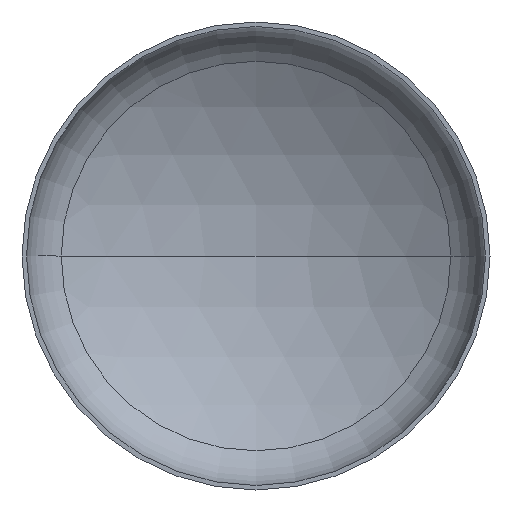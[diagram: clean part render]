
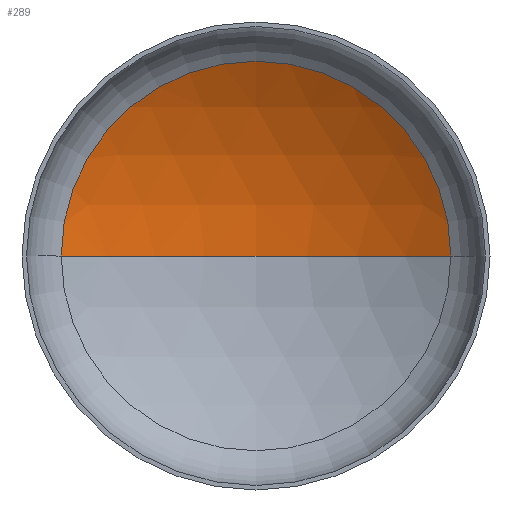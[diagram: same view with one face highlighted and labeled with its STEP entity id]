
A CAD part, front view. The second image highlights one B-rep face of the part: STEP entity #289.
In plain terms, the highlighted spherical face has radius 2720 mm.
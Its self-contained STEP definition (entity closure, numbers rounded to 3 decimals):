
#2 = DIRECTION ( 'NONE',  ( 0., -1., 0. ) ) ;
#3 = AXIS2_PLACEMENT_3D ( 'NONE', #201, #238, #196 ) ;
#6 = AXIS2_PLACEMENT_3D ( 'NONE', #146, #206, #158 ) ;
#21 = CARTESIAN_POINT ( 'NONE',  ( 1415.144, 548.35, 0. ) ) ;
#27 = AXIS2_PLACEMENT_3D ( 'NONE', #249, #40, #241 ) ;
#35 = ORIENTED_EDGE ( 'NONE', *, *, #123, .T. ) ;
#40 = DIRECTION ( 'NONE',  ( 0., 0., -1. ) ) ;
#45 = CARTESIAN_POINT ( 'NONE',  ( -1415.144, 548.35, 0. ) ) ;
#48 = CIRCLE ( 'NONE', #6, 2720. ) ;
#50 = AXIS2_PLACEMENT_3D ( 'NONE', #266, #2, #300 ) ;
#51 = ORIENTED_EDGE ( 'NONE', *, *, #367, .T. ) ;
#58 = EDGE_LOOP ( 'NONE', ( #118, #51, #35 ) ) ;
#114 = FACE_OUTER_BOUND ( 'NONE', #58, .T. ) ;
#118 = ORIENTED_EDGE ( 'NONE', *, *, #369, .F. ) ;
#123 = EDGE_CURVE ( 'NONE', #131, #278, #401, .T. ) ;
#131 = VERTEX_POINT ( 'NONE', #21 ) ;
#146 = CARTESIAN_POINT ( 'NONE',  ( 0., -1774.53, 0. ) ) ;
#158 = DIRECTION ( 'NONE',  ( -1., 0., 0. ) ) ;
#190 = CARTESIAN_POINT ( 'NONE',  ( 0., 945.47, 0. ) ) ;
#196 = DIRECTION ( 'NONE',  ( 1., 0., 0. ) ) ;
#201 = CARTESIAN_POINT ( 'NONE',  ( 0., -1774.53, 0. ) ) ;
#206 = DIRECTION ( 'NONE',  ( 0., 0., -1. ) ) ;
#238 = DIRECTION ( 'NONE',  ( 0., 0., 1. ) ) ;
#241 = DIRECTION ( 'NONE',  ( -1., 0., 0. ) ) ;
#249 = CARTESIAN_POINT ( 'NONE',  ( 0., -1774.53, 0. ) ) ;
#251 = SPHERICAL_SURFACE ( 'NONE', #27, 2720. ) ;
#266 = CARTESIAN_POINT ( 'NONE',  ( 0., 548.35, 0. ) ) ;
#278 = VERTEX_POINT ( 'NONE', #45 ) ;
#289 = ADVANCED_FACE ( 'NONE', ( #114 ), #251, .F. ) ;
#300 = DIRECTION ( 'NONE',  ( 1., 0., 0. ) ) ;
#328 = CIRCLE ( 'NONE', #3, 2720. ) ;
#332 = VERTEX_POINT ( 'NONE', #190 ) ;
#367 = EDGE_CURVE ( 'NONE', #332, #131, #48, .T. ) ;
#369 = EDGE_CURVE ( 'NONE', #332, #278, #328, .T. ) ;
#401 = CIRCLE ( 'NONE', #50, 1415.144 ) ;
